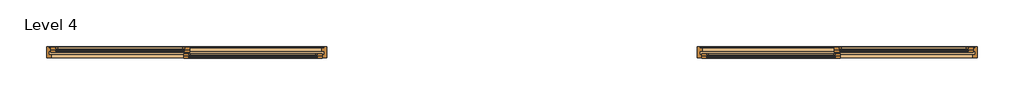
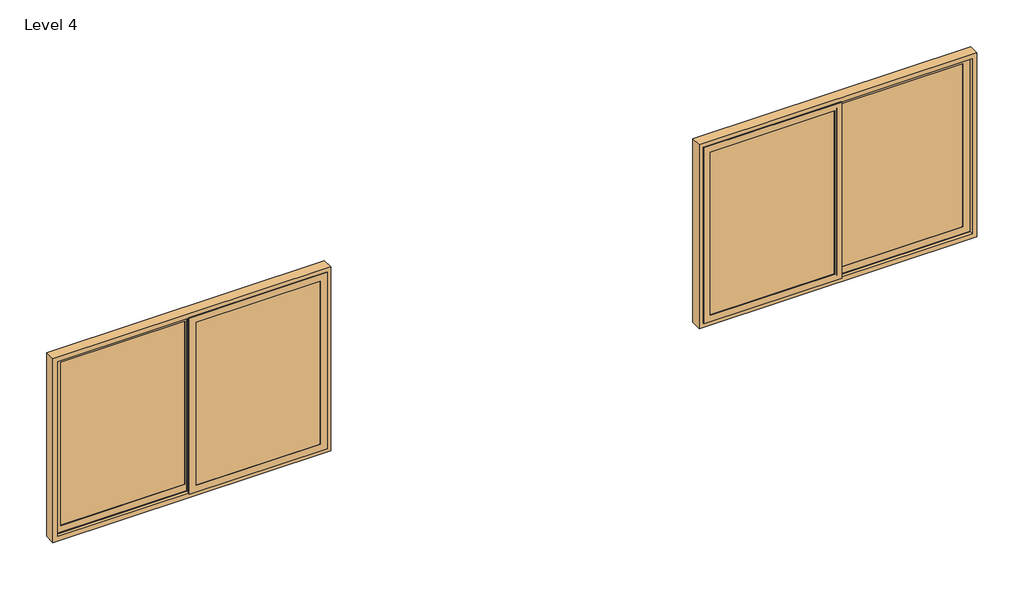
# One storey: 2 doors.
"""IFC4 building model written with IfcOpenShell, lengths in millimetres."""

from ifc_helpers import new_model, si_unit, origin, place, context, project, spatial, transform, mapped, element, save
from components import standard_eb2c0629, standard_94ef009a

model = new_model("IFC4")

# Units and contexts
model_context = context("Model", 3, world=origin())
ifc_project = project(units=[si_unit("LENGTHUNIT", "METRE", prefix="MILLI")], contexts=[model_context])

# Site, building, storey
site = spatial("IfcSite", under=ifc_project)
building = spatial("IfcBuilding", under=site)
storey = spatial("IfcBuildingStorey", under=building, Name="Level 4", Elevation=9000.0)

# Doors
placement = place(None, origin())
standard_shape = standard_eb2c0629(model_context)
element("IfcDoor", 1, ObjectType="SMARTS_Visoglide Plus : Standard", at=placement, inside=storey, context=model_context, shape_type="MappedRepresentation", body=[
    mapped(standard_shape, transform((-253379.9951777, 24312.6264647, 9000.0), x_axis=(-1.0, 0.0, 0.0), y_axis=(0.0, -1.0, 0.0), z_axis=(0.0, 0.0, 1.0))),
])
standard_2_shape = standard_94ef009a(model_context)
element("IfcDoor", 2, ObjectType="SMARTS_Visoglide Plus : Standard", at=placement, inside=storey, context=model_context, shape_type="MappedRepresentation", body=[
    mapped(standard_2_shape, transform((-246429.2339641, 24312.6264647, 9000.0), x_axis=(1.0, 0.0, 0.0), y_axis=(0.0, 1.0, 0.0), z_axis=(0.0, 0.0, 1.0))),
])

save(model, "model.ifc")
